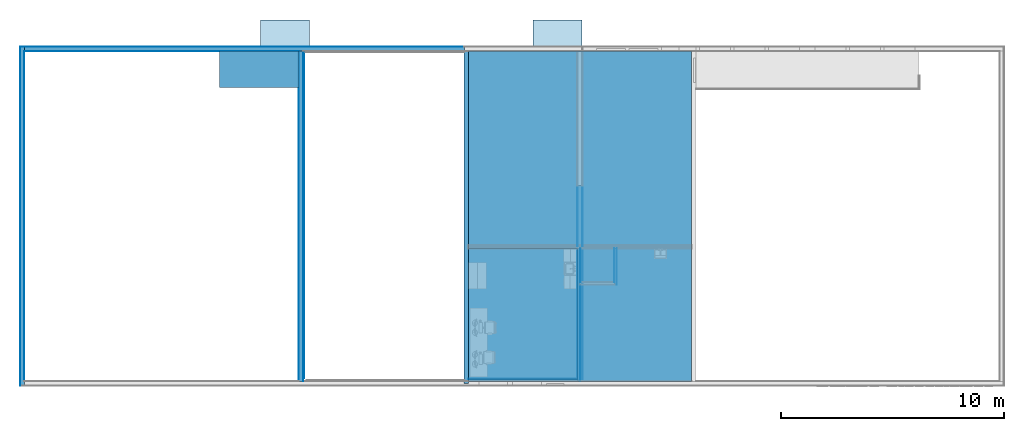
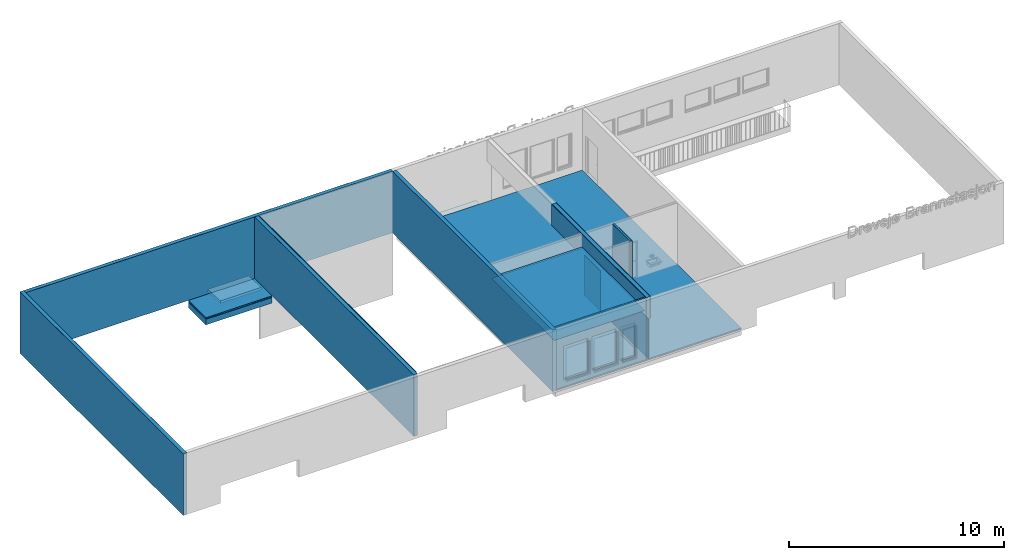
# One storey, part 1 of 12: 38 building element parts, 2 slabs, 6 openings, 13 elements without a shape of their own.
"""IFC4 building model written with IfcOpenShell, lengths in millimetres."""

import ifcopenshell
import ifcopenshell.guid

model = None  # the IFC model being written
_history = None  # IfcOwnerHistory: only IFC2X3 demands one
_inside = {}  # id of a spatial element -> (the spatial element, [elements in it])
_under = {}  # id of a project, library or spatial element -> (it, [spatial elements below it])
_declared = {}  # id of a project -> (the project, [libraries it declares])
_typed = {}  # id of a type object -> (the type object, [elements of that type])
_made_of = {}  # id of a material, layer set ... -> (it, [elements and type objects made of it])


def new_model(schema):
    """Start an empty IFC model of exactly this schema.

    Asked for "IFC4X3", IfcOpenShell would pick the latest addendum, in which some entities
    have other attributes; the version numbers below select the first issue.
    IFC2X3 requires an IfcOwnerHistory on every rooted entity: one is made here for all.
    """
    global model, _history
    if schema == "IFC4X3":
        model = ifcopenshell.file(schema_version=(4, 3, 0, 0))
    else:
        model = ifcopenshell.file(schema=schema)
    _inside.clear()
    _under.clear()
    _declared.clear()
    _typed.clear()
    _made_of.clear()
    _history = None
    if model.schema == "IFC2X3":
        org = make("IfcOrganization", Name="unknown")
        user = make(
            "IfcPersonAndOrganization",
            ThePerson=make("IfcPerson", FamilyName="unknown"),
            TheOrganization=org,
        )
        app = make(
            "IfcApplication",
            ApplicationDeveloper=org,
            Version="unknown",
            ApplicationFullName="unknown",
            ApplicationIdentifier="unknown",
        )
        _history = make(
            "IfcOwnerHistory",
            OwningUser=user,
            OwningApplication=app,
            ChangeAction="ADDED",
            CreationDate=0,
        )
    return model


def make(cls, **values):
    """One entity of the class cls with the attributes given. An attribute that is None is left unset."""
    return model.create_entity(
        cls, **{name: value for name, value in values.items() if value is not None}
    )


def entity(cls, *values):
    """Any entity or typed value of the class cls, its attributes in the order of the schema. None: left unset."""
    e = model.create_entity(cls)
    for i, value in enumerate(values):
        if value is not None:
            e[i] = value
    return e


def rooted(cls, **values):
    """An entity with a GlobalId (a new one), such as an element, a storey or a relation."""
    return make(cls, GlobalId=ifcopenshell.guid.new(), OwnerHistory=_history, **values)


def si_unit(unit_type, name, prefix=None):
    """IfcSIUnit, for example si_unit("LENGTHUNIT", "METRE", prefix="MILLI")."""
    return make("IfcSIUnit", UnitType=unit_type, Prefix=prefix, Name=name)


def converted_unit(unit_type, name, factor, base, dimensions=None, offset=None):
    """IfcConversionBasedUnit, such as the inch: factor (a typed value) times the base unit."""
    return make(
        "IfcConversionBasedUnit"
        if offset is None
        else "IfcConversionBasedUnitWithOffset",
        ConversionOffset=offset,
        Dimensions=None
        if dimensions is None
        else entity("IfcDimensionalExponents", *dimensions),
        UnitType=unit_type,
        Name=name,
        ConversionFactor=make(
            "IfcMeasureWithUnit", ValueComponent=factor, UnitComponent=base
        ),
    )


def assignment(units):
    """IfcUnitAssignment: the units of a project."""
    return None if units is None else make("IfcUnitAssignment", Units=units)


def point(xyz):
    """IfcCartesianPoint."""
    return None if xyz is None else make("IfcCartesianPoint", Coordinates=xyz)


def direction(xyz):
    """IfcDirection."""
    return None if xyz is None else make("IfcDirection", DirectionRatios=xyz)


def frame(location, z_axis=None, x_axis=None):
    """IfcAxis2Placement3D, a coordinate frame: its origin and axes. An axis left out is left unset."""
    return make(
        "IfcAxis2Placement3D",
        Location=point(location),
        Axis=direction(z_axis),
        RefDirection=direction(x_axis),
    )


def origin():
    """The frame at (0, 0, 0) with its axes left unset."""
    return frame((0.0, 0.0, 0.0))


def place(relative_to, where):
    """IfcLocalPlacement: puts the frame where relative to a parent placement (None: the world)."""
    return make(
        "IfcLocalPlacement", PlacementRelTo=relative_to, RelativePlacement=where
    )


def context(
    kind, dimensions, precision=None, world=None, true_north=None, identifier=None
):
    """IfcGeometricRepresentationContext, for example the 3D "Model" context."""
    return make(
        "IfcGeometricRepresentationContext",
        ContextIdentifier=identifier,
        ContextType=kind,
        CoordinateSpaceDimension=dimensions,
        Precision=precision,
        WorldCoordinateSystem=world,
        TrueNorth=true_north,
    )


def subcontext(parent, identifier, kind, view, scale=None):
    """IfcGeometricRepresentationSubContext, for example "Body" below "Model"."""
    return make(
        "IfcGeometricRepresentationSubContext",
        ContextIdentifier=identifier,
        ContextType=kind,
        ParentContext=parent,
        TargetScale=scale,
        TargetView=view,
    )


def project(units=None, contexts=None):
    """IfcProject with its units and contexts."""
    return rooted(
        "IfcProject",
        Name="project",
        RepresentationContexts=contexts,
        UnitsInContext=assignment(units),
    )


def spatial(cls, under=None, at=None, **own):
    """A site, building, storey or space (cls), placed at a placement, below another one or the project."""
    s = rooted(cls, ObjectPlacement=at, **own)
    if under is not None:
        _under.setdefault(under.id(), (under, []))[1].append(s)
    return s


def point_list(points):
    """IfcCartesianPointList2D or 3D."""
    cls = (
        "IfcCartesianPointList2D" if len(points[0]) == 2 else "IfcCartesianPointList3D"
    )
    return make(cls, CoordList=points)


def indexed_curve(points, segments=None, self_intersect=None):
    """IfcIndexedPolyCurve: lines and arcs through numbered points (the first is 1)."""
    return make(
        "IfcIndexedPolyCurve",
        Points=point_list(points),
        Segments=segments,
        SelfIntersect=self_intersect,
    )


def outline(outer, holes=None, kind="AREA"):
    """IfcArbitraryClosedProfileDef: a profile drawn as a closed curve; with holes, ...WithVoids."""
    if holes is None:
        return make("IfcArbitraryClosedProfileDef", ProfileType=kind, OuterCurve=outer)
    return make(
        "IfcArbitraryProfileDefWithVoids",
        ProfileType=kind,
        OuterCurve=outer,
        InnerCurves=holes,
    )


def extrude(swept, where, along, depth):
    """IfcExtrudedAreaSolid: the profile swept, set in the frame where, extruded along a direction by depth."""
    return make(
        "IfcExtrudedAreaSolid",
        SweptArea=swept,
        Position=where,
        ExtrudedDirection=direction(along),
        Depth=depth,
    )


def shape(context_of_items, identifier, shape_type, items):
    """IfcShapeRepresentation: the items that make up one representation, for example the "Body"."""
    return make(
        "IfcShapeRepresentation",
        ContextOfItems=context_of_items,
        RepresentationIdentifier=identifier,
        RepresentationType=shape_type,
        Items=items,
    )


def material(Name=None, Category=None):
    """IfcMaterial."""
    return make("IfcMaterial", Name=Name, Category=Category)


def made_of(thing, what):
    """Note that an element or type object is made of a material, layer set ...; save() writes the relation."""
    if what is not None:
        _made_of.setdefault(what.id(), (what, []))[1].append(thing)
    return thing


def type_object(cls, material=None, **own):
    """A type object (cls), such as IfcWallType, which elements share."""
    return made_of(rooted(cls, **own), material)


def element(
    cls,
    number,
    at=None,
    inside=None,
    cuts=None,
    type_object=None,
    material=None,
    context=None,
    identifier="Body",
    shape_type=None,
    held_by="IfcProductDefinitionShape",
    body=None,
    shapes=None,
    **own,
):
    """One element of the class cls, such as IfcWall. Its Tag is "e" and its number.

    at: its placement. inside: the storey or other place that contains it. cuts: it is an
    opening in that element (IfcRelVoidsElement). A single representation is given by context,
    identifier, shape_type and body (its items); several are given by shapes. held_by: the class
    of the entity that holds the representations. save() writes the other relations.
    """
    e = rooted(cls, Tag="e%d" % number, ObjectPlacement=at, **own)
    if body is not None:
        shapes = [shape(context, identifier, shape_type, body)]
    if shapes is not None:
        e.Representation = make(held_by, Representations=shapes)
    if inside is not None:
        _inside.setdefault(inside.id(), (inside, []))[1].append(e)
    if cuts is not None:
        rooted(
            "IfcRelVoidsElement", RelatingBuildingElement=cuts, RelatedOpeningElement=e
        )
    if type_object is not None:
        _typed.setdefault(type_object.id(), (type_object, []))[1].append(e)
    return made_of(e, material)


def aggregate(whole, parts):
    """IfcRelAggregates: a whole, such as a stair, and the parts it consists of."""
    return rooted("IfcRelAggregates", RelatingObject=whole, RelatedObjects=parts)


def save(model, path):
    """Write the relations noted so far, then the file.

    IfcRelAggregates (storeys below a building ...), IfcRelContainedInSpatialStructure (elements
    in a storey), IfcRelDefinesByType, IfcRelAssociatesMaterial and IfcRelDeclares: one each for
    every whole, place, type object, material and project.
    """
    for whole, parts in _under.values():
        aggregate(whole, parts)
    for where, things in _inside.values():
        rooted(
            "IfcRelContainedInSpatialStructure",
            RelatedElements=things,
            RelatingStructure=where,
        )
    for kind, things in _typed.values():
        rooted("IfcRelDefinesByType", RelatedObjects=things, RelatingType=kind)
    for what, things in _made_of.values():
        rooted("IfcRelAssociatesMaterial", RelatedObjects=things, RelatingMaterial=what)
    for by, libraries in _declared.values():
        rooted("IfcRelDeclares", RelatingContext=by, RelatedDefinitions=libraries)
    model.write(path)


model = new_model("IFC4")

# Units and contexts
model_context = context("Model", 3, precision=0.01, world=origin(), true_north=direction((0.0, 1.0)))
body_context = subcontext(model_context, "Body", "Model", "MODEL_VIEW")
ifc_project = project(units=[si_unit("LENGTHUNIT", "METRE", prefix="MILLI"), si_unit("AREAUNIT", "SQUARE_METRE"), si_unit("VOLUMEUNIT", "CUBIC_METRE"), converted_unit("PLANEANGLEUNIT", "DEGREE", entity("IfcPlaneAngleMeasure", 0.017453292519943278), si_unit("PLANEANGLEUNIT", "RADIAN"), dimensions=[0, 0, 0, 0, 0, 0, 0])], contexts=[model_context])

# Site, building, storey
site_placement = place(None, origin())
site = spatial("IfcSite", under=ifc_project, at=site_placement, Name="Tomtens navn", CompositionType="ELEMENT")
building_placement = place(site_placement, origin())
building = spatial("IfcBuilding", under=site, at=building_placement, Name="Byggets navn", CompositionType="ELEMENT")
storey_placement = place(building_placement, frame((0.0, 0.0, 3500.0)))
storey = spatial("IfcBuildingStorey", under=building, at=storey_placement, Name="Level 02", CompositionType="ELEMENT", Elevation=3499.999999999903)

# Roof, slab
roof_1_placement = place(storey_placement, frame((49282.85352810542, 23061.46645692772, -1000.0)))
roof_1 = element("IfcRoof", 1, at=roof_1_placement, inside=storey, Name="Basic Roof:Standard 150", PredefinedType="NOTDEFINED")
ifc_material_1 = material(Name="Default Roof(1)", Category="Unassigned")
slab_type_1 = type_object("IfcSlabType", Name="Basic Roof:Standard 150", PredefinedType="ROOF")
slab_1_placement = place(roof_1_placement, origin())
slab_1 = element("IfcSlab", 2, at=slab_1_placement, type_object=slab_type_1, material=ifc_material_1, Name="Basic Roof:Standard 150", PredefinedType="ROOF", context=body_context, shape_type="SweptSolid", body=[
    extrude(outline(indexed_curve([(-1100.0000000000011, -600.8234075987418), (1100.0000000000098, -600.8234075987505), (1100.0000000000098, 600.8234075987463), (-1100.0000000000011, 600.8234075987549), (-1100.0000000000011, -600.8234075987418)], self_intersect=False)), frame((1100.0, 600.0, 31.444667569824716), z_axis=(0.0, 0.05233595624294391, 0.9986295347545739), x_axis=(1.0, 0.0, 0.0)), (0.0, -0.05233595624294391, 0.9986295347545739), 150.20585189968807),
])
aggregate(roof_1, [slab_1])

roof_2_placement = place(storey_placement, frame((61502.61169884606, 23061.46645692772, -1000.0)))
roof_2 = element("IfcRoof", 3, at=roof_2_placement, inside=storey, Name="Basic Roof:Standard 150", PredefinedType="NOTDEFINED")
slab_2_placement = place(roof_2_placement, origin())
slab_2 = element("IfcSlab", 4, at=slab_2_placement, type_object=slab_type_1, material=ifc_material_1, Name="Basic Roof:Standard 150", PredefinedType="ROOF", context=body_context, shape_type="SweptSolid", body=[
    extrude(outline(indexed_curve([(-1100.0000000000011, -600.8234075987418), (1100.0000000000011, -600.8234075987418), (1100.0000000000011, 600.8234075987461), (-1100.0000000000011, 600.8234075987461), (-1100.0000000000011, -600.8234075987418)], self_intersect=False)), frame((1100.0, 600.0, 31.444667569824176), z_axis=(0.0, 0.05233595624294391, 0.9986295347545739), x_axis=(1.0, 0.0, 0.0)), (0.0, -0.05233595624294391, 0.9986295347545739), 150.20585189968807),
])
aggregate(roof_2, [slab_2])

# Wall, building element parts
wall_type_1 = type_object("IfcWallType", Name="Basic Wall:YV02 Sandwichvegg 200", PredefinedType="STANDARD")
wall_1_placement = place(storey_placement, frame((51112.85352810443, 8061.466456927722, 0.0), z_axis=(0.0, 0.0, 1.0), x_axis=(0.0, 1.0, 0.0)))
wall_1 = element("IfcWall", 5, at=wall_1_placement, inside=storey, type_object=wall_type_1, Name="Basic Wall:YV02 Sandwichvegg 200", PredefinedType="NOTDEFINED")
ifc_material_2 = material(Name="Metall - Malt overflate - Mørk Grå, Matt", Category="Unassigned")
building_element_part_1_placement = place(wall_1_placement, origin())
building_element_part_1 = element("IfcBuildingElementPart", 6, at=building_element_part_1_placement, material=ifc_material_2, Name="Metall - Malt overflate - Mørk Grå, Matt", context=body_context, shape_type="SweptSolid", body=[
    extrude(outline(indexed_curve([(-7399.999999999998, -1.000000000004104), (7399.999999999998, -1.000000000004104), (7399.999999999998, 0.9999999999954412), (-7399.999999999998, 0.9999999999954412), (-7399.999999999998, -1.000000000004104)], self_intersect=False)), frame((7400.0, 99.0, 0.0), z_axis=(0.0, 0.0, 1.0), x_axis=(-1.0, 0.0, 0.0)), (0.0, 0.0, 1.0), 3499.999999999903),
])
ifc_material_3 = material(Name="Rustfritt Stål", Category="Metal")
building_element_part_2_placement = place(wall_1_placement, origin())
building_element_part_2 = element("IfcBuildingElementPart", 7, at=building_element_part_2_placement, material=ifc_material_3, Name="Rustfritt Stål", context=body_context, shape_type="SweptSolid", body=[
    extrude(outline(indexed_curve([(-7399.999999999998, -0.9999999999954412), (7399.999999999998, -0.9999999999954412), (7399.999999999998, 0.9999999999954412), (-7399.999999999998, 0.9999999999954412), (-7399.999999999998, -0.9999999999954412)], self_intersect=False)), frame((7400.0, -99.0, 0.0), z_axis=(0.0, 0.0, 1.0), x_axis=(-1.0, 0.0, 0.0)), (0.0, 0.0, 1.0), 3499.999999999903),
])
ifc_material_4 = material(Name="NO_Isolasjon - Fast", Category="Isolasjon")
building_element_part_3_placement = place(wall_1_placement, origin())
building_element_part_3 = element("IfcBuildingElementPart", 8, at=building_element_part_3_placement, material=ifc_material_4, Name="NO_Isolasjon - Fast", context=body_context, shape_type="SweptSolid", body=[
    extrude(outline(indexed_curve([(-7401.999999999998, -98.00000000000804), (7401.999999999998, -98.00000000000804), (7401.999999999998, 97.99999999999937), (-7401.999999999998, 97.99999999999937), (-7401.999999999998, -98.00000000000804)], self_intersect=False)), frame((7400.0, 0.0, 0.0), z_axis=(0.0, 0.0, 1.0), x_axis=(-1.0, 0.0, 0.0)), (0.0, 0.0, 1.0), 3499.999999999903),
])
aggregate(wall_1, [building_element_part_1, building_element_part_2, building_element_part_3])

# Wall, building element part
wall_type_2 = type_object("IfcWallType", Name="Basic Wall:IV21 Betong 200", PredefinedType="STANDARD")
wall_2_placement = place(storey_placement, frame((58522.85352810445, 22861.46645692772, 0.0), z_axis=(0.0, 0.0, 1.0), x_axis=(0.0, -1.0, 0.0)))
wall_2 = element("IfcWall", 9, at=wall_2_placement, inside=storey, type_object=wall_type_2, Name="Basic Wall:IV21 Betong 200", PredefinedType="NOTDEFINED")
ifc_material_5 = material(Name="NO_Betong - Plasstøpt", Category="Betong")
building_element_part_4_placement = place(wall_2_placement, origin())
building_element_part_4 = element("IfcBuildingElementPart", 10, at=building_element_part_4_placement, material=ifc_material_5, Name="NO_Betong - Plasstøpt", context=body_context, shape_type="SweptSolid", body=[
    extrude(outline(indexed_curve([(-7449.999999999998, -100.00000000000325), (7449.999999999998, -100.00000000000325), (7449.999999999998, 99.99999999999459), (-7449.999999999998, 99.99999999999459), (-7449.999999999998, -100.00000000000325)], self_intersect=False)), frame((7450.0, 0.0, 0.0)), (0.0, 0.0, 1.0), 3499.999999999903),
])
aggregate(wall_2, [building_element_part_4])

# Slab, building element parts
slab_type_2 = type_object("IfcSlabType", Name="Floor:HD-320+ isolasjon og avretting", PredefinedType="FLOOR")
slab_3_placement = place(storey_placement, origin())
slab_3 = element("IfcSlab", 11, at=slab_3_placement, inside=storey, type_object=slab_type_2, Name="Floor:HD-320+ isolasjon og avretting", PredefinedType="FLOOR")
ifc_material_6 = material(Name="NO_Vinyl", Category="Diverse")
building_element_part_5_placement = place(slab_3_placement, origin())
building_element_part_5 = element("IfcBuildingElementPart", 12, at=building_element_part_5_placement, material=ifc_material_6, Name="NO_Vinyl", context=body_context, shape_type="SweptSolid", body=[
    extrude(outline(indexed_curve([(-810.4999999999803, -1780.2500000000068), (810.499999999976, -1780.2500000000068), (810.499999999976, 1780.2500000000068), (-810.4999999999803, 1780.2500000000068), (-810.4999999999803, -1780.2500000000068)], self_intersect=False)), frame((49232.60352810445, 22050.966456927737, -2.0), z_axis=(0.0, 0.0, 1.0), x_axis=(0.0, -1.0, 0.0)), (0.0, 0.0, 1.0), 2.0000000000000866),
])
building_element_part_6_placement = place(slab_3_placement, origin())
building_element_part_6 = element("IfcBuildingElementPart", 13, at=building_element_part_6_placement, material=ifc_material_6, Name="NO_Vinyl", context=body_context, shape_type="SweptSolid", body=[
    extrude(outline(indexed_curve([(-7400.000000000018, -4999.999999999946), (7400.000000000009, -4999.999999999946), (7400.000000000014, 4999.999999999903), (-7400.000000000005, 4999.999999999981), (-7400.000000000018, -4999.999999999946)], self_intersect=False)), frame((63622.853528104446, 15461.46645692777, -2.0), z_axis=(0.0, 0.0, 1.0), x_axis=(0.0, -1.0, 0.0)), (0.0, 0.0, 1.0), 2.0000000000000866),
])
building_element_part_7_placement = place(slab_3_placement, origin())
building_element_part_7 = element("IfcBuildingElementPart", 14, at=building_element_part_7_placement, material=ifc_material_5, Name="NO_Betong - Plasstøpt", context=body_context, shape_type="SweptSolid", body=[
    extrude(outline(indexed_curve([(-810.4999999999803, -1780.2500000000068), (810.499999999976, -1780.2500000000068), (810.499999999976, 1780.2500000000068), (-810.4999999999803, 1780.2500000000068), (-810.4999999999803, -1780.2500000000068)], self_intersect=False)), frame((49232.60352810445, 22050.966456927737, -72.0), z_axis=(0.0, 0.0, 1.0), x_axis=(0.0, -1.0, 0.0)), (0.0, 0.0, 1.0), 69.99999999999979),
])
building_element_part_8_placement = place(slab_3_placement, origin())
building_element_part_8 = element("IfcBuildingElementPart", 15, at=building_element_part_8_placement, material=ifc_material_5, Name="NO_Betong - Plasstøpt", context=body_context, shape_type="SweptSolid", body=[
    extrude(outline(indexed_curve([(-7400.000000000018, -4999.999999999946), (7400.000000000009, -4999.999999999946), (7400.000000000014, 4999.999999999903), (-7400.000000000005, 4999.999999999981), (-7400.000000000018, -4999.999999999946)], self_intersect=False)), frame((63622.853528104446, 15461.46645692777, -72.0), z_axis=(0.0, 0.0, 1.0), x_axis=(0.0, -1.0, 0.0)), (0.0, 0.0, 1.0), 69.99999999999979),
])
building_element_part_9_placement = place(slab_3_placement, origin())
building_element_part_9 = element("IfcBuildingElementPart", 16, at=building_element_part_9_placement, material=ifc_material_4, Name="NO_Isolasjon - Fast", context=body_context, shape_type="SweptSolid", body=[
    extrude(outline(indexed_curve([(-810.4999999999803, -1780.2500000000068), (810.499999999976, -1780.2500000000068), (810.499999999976, 1780.2500000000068), (-810.4999999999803, 1780.2500000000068), (-810.4999999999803, -1780.2500000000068)], self_intersect=False)), frame((49232.60352810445, 22050.966456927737, -92.0), z_axis=(0.0, 0.0, 1.0), x_axis=(0.0, -1.0, 0.0)), (0.0, 0.0, 1.0), 20.000000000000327),
])
building_element_part_10_placement = place(slab_3_placement, origin())
building_element_part_10 = element("IfcBuildingElementPart", 17, at=building_element_part_10_placement, material=ifc_material_4, Name="NO_Isolasjon - Fast", context=body_context, shape_type="SweptSolid", body=[
    extrude(outline(indexed_curve([(-7400.000000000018, -4999.999999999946), (7400.000000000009, -4999.999999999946), (7400.000000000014, 4999.999999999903), (-7400.000000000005, 4999.999999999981), (-7400.000000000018, -4999.999999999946)], self_intersect=False)), frame((63622.853528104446, 15461.46645692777, -92.0), z_axis=(0.0, 0.0, 1.0), x_axis=(0.0, -1.0, 0.0)), (0.0, 0.0, 1.0), 20.000000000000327),
])
building_element_part_11_placement = place(slab_3_placement, origin())
building_element_part_11 = element("IfcBuildingElementPart", 18, at=building_element_part_11_placement, Name="Floor:HD-320+ isolasjon og avretting", context=body_context, shape_type="SweptSolid", body=[
    extrude(outline(indexed_curve([(-810.4999999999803, -1780.2500000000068), (810.499999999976, -1780.2500000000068), (810.499999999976, 1780.2500000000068), (-810.4999999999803, 1780.2500000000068), (-810.4999999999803, -1780.2500000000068)], self_intersect=False)), frame((49232.60352810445, 22050.966456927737, -412.0), z_axis=(0.0, 0.0, 1.0), x_axis=(0.0, -1.0, 0.0)), (0.0, 0.0, 1.0), 319.99999999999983),
])
aggregate(slab_3, [building_element_part_5, building_element_part_6, building_element_part_7, building_element_part_8, building_element_part_9, building_element_part_10, building_element_part_11])

# Wall, building element parts, openings
wall_type_3 = type_object("IfcWallType", Name="Basic Wall:IV20 242- Utforing isolert Stender(95) gips", PredefinedType="STANDARD")
wall_3_placement = place(storey_placement, frame((63496.35352810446, 8115.466456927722, 0.0), z_axis=(0.0, 0.0, 1.0), x_axis=(-1.0, 0.0, 0.0)))
wall_3 = element("IfcWall", 19, at=wall_3_placement, inside=storey, type_object=wall_type_3, Name="Basic Wall:IV20 242- Utforing isolert Stender(95) gips", PredefinedType="NOTDEFINED")
ifc_material_7 = material(Name="NO_Gips", Category="Gips")
building_element_part_12_placement = place(wall_3_placement, origin())
building_element_part_12 = element("IfcBuildingElementPart", 20, at=building_element_part_12_placement, material=ifc_material_7, Name="NO_Gips", context=body_context, shape_type="SweptSolid", body=[
    extrude(outline(indexed_curve([(-6.499999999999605, -2443.250000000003), (6.500000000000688, -2443.250000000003), (6.499999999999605, 2443.250000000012), (-6.500000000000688, 2443.250000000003), (-6.499999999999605, -2443.250000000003)], self_intersect=False)), frame((2430.2500000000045, -47.50000000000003, 0.0), z_axis=(0.0, 0.0, 1.0), x_axis=(0.0, -1.0, 0.0)), (0.0, 0.0, 1.0), 3500.000000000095),
])
opening_1_placement = place(wall_3_placement, origin())
opening_1 = element("IfcOpeningElement", 21, at=opening_1_placement, cuts=building_element_part_12, Name="Basic Wall:IV20 242- Utforing isolert Stender(95) gips:1", PredefinedType="OPENING", context=body_context, shape_type="SweptSolid", body=[
    extrude(outline(indexed_curve([(-1266.6666666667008, -654.9999999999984), (623.333333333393, -654.9999999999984), (643.3333333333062, -654.9999999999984), (643.3333333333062, 655.000000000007), (623.333333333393, 655.000000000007), (-1266.6666666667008, 654.9999999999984), (-1266.6666666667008, -654.9999999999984)], self_intersect=False)), frame((3765.5000000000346, -41.0, 1666.666666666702), z_axis=(0.0, -1.0, 0.0), x_axis=(0.0, 0.0, 1.0)), (0.0, 0.0, 1.0), 12.99999999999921),
])
opening_2_placement = place(wall_3_placement, origin())
opening_2 = element("IfcOpeningElement", 22, at=opening_2_placement, cuts=building_element_part_12, Name="Basic Wall:IV20 242- Utforing isolert Stender(95) gips:2", PredefinedType="OPENING", context=body_context, shape_type="SweptSolid", body=[
    extrude(outline(indexed_curve([(-1266.6666666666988, -404.99999999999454), (623.3333333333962, -404.99999999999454), (643.3333333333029, -404.99999999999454), (643.3333333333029, 405.00000000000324), (623.3333333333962, 405.00000000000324), (-1266.6666666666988, 405.00000000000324), (-1266.6666666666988, -404.99999999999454)], self_intersect=False)), frame((995.5000000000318, -41.0, 1666.6666666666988), z_axis=(0.0, -1.0, 0.0), x_axis=(0.0, 0.0, 1.0)), (0.0, 0.0, 1.0), 12.99999999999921),
])
opening_3_placement = place(wall_3_placement, origin())
opening_3 = element("IfcOpeningElement", 23, at=opening_3_placement, cuts=building_element_part_12, Name="Basic Wall:IV20 242- Utforing isolert Stender(95) gips:3", PredefinedType="OPENING", context=body_context, shape_type="SweptSolid", body=[
    extrude(outline(indexed_curve([(-1266.6666666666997, -654.9999999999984), (623.3333333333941, -654.9999999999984), (643.3333333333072, -654.9999999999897), (643.3333333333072, 655.000000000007), (623.3333333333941, 655.000000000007), (-1266.6666666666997, 654.9999999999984), (-1266.6666666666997, -654.9999999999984)], self_intersect=False)), frame((2255.500000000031, -41.0, 1666.6666666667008), z_axis=(0.0, -1.0, 0.0), x_axis=(0.0, 0.0, 1.0)), (0.0, 0.0, 1.0), 12.99999999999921),
])
ifc_material_8 = material(Name="NO_Konstruksjon - Isolert", Category="Tre")
building_element_part_13_placement = place(wall_3_placement, origin())
building_element_part_13 = element("IfcBuildingElementPart", 24, at=building_element_part_13_placement, material=ifc_material_8, Name="NO_Konstruksjon - Isolert", context=body_context, shape_type="SweptSolid", body=[
    extrude(outline(indexed_curve([(-47.50000000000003, -2449.750000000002), (47.50000000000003, -2449.7500000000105), (47.49999999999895, 2449.7500000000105), (-47.500000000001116, 2449.7500000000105), (-47.50000000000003, -2449.750000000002)], self_intersect=False)), frame((2423.750000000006, 6.500000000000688, 0.0), z_axis=(0.0, 0.0, 1.0), x_axis=(0.0, 1.0, 0.0)), (0.0, 0.0, 1.0), 3500.000000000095),
])
opening_4_placement = place(wall_3_placement, origin())
opening_4 = element("IfcOpeningElement", 25, at=opening_4_placement, cuts=building_element_part_13, Name="Basic Wall:IV20 242- Utforing isolert Stender(95) gips:1", PredefinedType="OPENING", context=body_context, shape_type="SweptSolid", body=[
    extrude(outline(indexed_curve([(-623.3333333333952, -654.9999999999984), (1266.6666666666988, -654.9999999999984), (1266.6666666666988, 655.000000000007), (-623.3333333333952, 655.000000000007), (-643.3333333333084, 654.9999999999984), (-643.3333333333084, -654.9999999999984), (-623.3333333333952, -654.9999999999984)], self_intersect=False)), frame((3765.5000000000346, -41.0, 1666.6666666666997), z_axis=(0.0, 1.0, 0.0), x_axis=(0.0, 0.0, -1.0)), (0.0, 0.0, 1.0), 95.00000000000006),
])
opening_5_placement = place(wall_3_placement, origin())
opening_5 = element("IfcOpeningElement", 26, at=opening_5_placement, cuts=building_element_part_13, Name="Basic Wall:IV20 242- Utforing isolert Stender(95) gips:2", PredefinedType="OPENING", context=body_context, shape_type="SweptSolid", body=[
    extrude(outline(indexed_curve([(-1266.6666666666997, -654.9999999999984), (623.3333333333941, -655.000000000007), (643.3333333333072, -654.9999999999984), (643.3333333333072, 654.9999999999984), (623.3333333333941, 654.9999999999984), (-1266.6666666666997, 654.9999999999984), (-1266.6666666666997, -654.9999999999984)], self_intersect=False)), frame((2255.500000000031, -41.0, 1666.6666666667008), z_axis=(0.0, 1.0, 0.0), x_axis=(0.0, 0.0, 1.0)), (0.0, 0.0, 1.0), 95.00000000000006),
])
opening_6_placement = place(wall_3_placement, origin())
opening_6 = element("IfcOpeningElement", 27, at=opening_6_placement, cuts=building_element_part_13, Name="Basic Wall:IV20 242- Utforing isolert Stender(95) gips:3", PredefinedType="OPENING", context=body_context, shape_type="SweptSolid", body=[
    extrude(outline(indexed_curve([(-1266.6666666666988, -405.00000000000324), (623.3333333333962, -405.00000000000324), (643.3333333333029, -405.00000000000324), (643.3333333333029, 404.99999999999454), (623.3333333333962, 404.99999999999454), (-1266.6666666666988, 404.99999999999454), (-1266.6666666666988, -405.00000000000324)], self_intersect=False)), frame((995.5000000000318, -41.0, 1666.6666666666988), z_axis=(0.0, 1.0, 0.0), x_axis=(0.0, 0.0, 1.0)), (0.0, 0.0, 1.0), 95.00000000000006),
])
aggregate(wall_3, [building_element_part_12, opening_1, opening_2, opening_3, building_element_part_13, opening_4, opening_5, opening_6])

# Wall, building element parts
wall_type_4 = type_object("IfcWallType", Name="Basic Wall:IV24 - Forestia+Gips- Stende4+2xgips", PredefinedType="STANDARD")
wall_4_placement = place(storey_placement, frame((63622.35352810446, 16840.966456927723, 2290.0), z_axis=(0.0, 0.0, 1.0), x_axis=(0.0, -1.0, 0.0)))
wall_4 = element("IfcWall", 28, at=wall_4_placement, inside=storey, type_object=wall_type_4, Name="Basic Wall:IV24 - Forestia+Gips- Stende4+2xgips", PredefinedType="NOTDEFINED")
ifc_material_9 = material(Name="Gipsplater", Category="NOR ^ Gips")
building_element_part_14_placement = place(wall_4_placement, origin())
building_element_part_14 = element("IfcBuildingElementPart", 29, at=building_element_part_14_placement, material=ifc_material_9, Name="Gipsplater", context=body_context, shape_type="SweptSolid", body=[
    extrude(outline(indexed_curve([(-4389.75, -6.499999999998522), (4389.749999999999, -6.499999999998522), (4389.749999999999, 6.499999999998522), (-4389.75, 6.499999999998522), (-4389.75, -6.499999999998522)], self_intersect=False)), frame((4389.75, -106.50000000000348, 0.0)), (0.0, 0.0, 1.0), 1210.0),
])
building_element_part_15_placement = place(wall_4_placement, origin())
building_element_part_15 = element("IfcBuildingElementPart", 30, at=building_element_part_15_placement, material=ifc_material_9, Name="Gipsplater", context=body_context, shape_type="SweptSolid", body=[
    extrude(outline(indexed_curve([(-4389.75, -6.499999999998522), (4389.749999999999, -6.499999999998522), (4389.749999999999, 6.499999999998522), (-4389.75, 6.499999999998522), (-4389.75, -6.499999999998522)], self_intersect=False)), frame((4389.75, 106.50000000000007, 0.0)), (0.0, 0.0, 1.0), 1210.0),
])
ifc_material_10 = material(Name="NO_platekledning forestia", Category="Tre")
building_element_part_16_placement = place(wall_4_placement, origin())
building_element_part_16 = element("IfcBuildingElementPart", 31, at=building_element_part_16_placement, material=ifc_material_10, Name="NO_platekledning forestia", context=body_context, shape_type="SweptSolid", body=[
    extrude(outline(indexed_curve([(-4389.75, -6.499999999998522), (4389.749999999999, -6.499999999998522), (4389.75, 6.500000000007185), (-4389.75, 6.499999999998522), (-4389.75, -6.499999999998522)], self_intersect=False)), frame((4389.75, 119.49999999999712, 0.0)), (0.0, 0.0, 1.0), 1210.0),
])
building_element_part_17_placement = place(wall_4_placement, origin())
building_element_part_17 = element("IfcBuildingElementPart", 32, at=building_element_part_17_placement, material=ifc_material_9, Name="Gipsplater", context=body_context, shape_type="SweptSolid", body=[
    extrude(outline(indexed_curve([(-4389.75, -6.500000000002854), (4389.749999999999, -6.500000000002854), (4389.749999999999, 6.49999999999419), (-4389.75, 6.500000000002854), (-4389.75, -6.500000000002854)], self_intersect=False)), frame((4389.75, -119.50000000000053, 0.0)), (0.0, 0.0, 1.0), 1210.0),
])
ifc_material_11 = material(Name="Stender", Category="Unassigned")
building_element_part_18_placement = place(wall_4_placement, origin())
building_element_part_18 = element("IfcBuildingElementPart", 33, at=building_element_part_18_placement, material=ifc_material_11, Name="Stender", context=body_context, shape_type="SweptSolid", body=[
    extrude(outline(indexed_curve([(-4390.75, -100.00000000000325), (4390.749999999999, -100.00000000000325), (4390.749999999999, 100.00000000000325), (-4390.75, 100.00000000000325), (-4390.75, -100.00000000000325)], self_intersect=False)), frame((4390.75, 0.0, 0.0)), (0.0, 0.0, 1.0), 1210.0),
])
aggregate(wall_4, [building_element_part_14, building_element_part_15, building_element_part_16, building_element_part_17, building_element_part_18])

wall_type_5 = type_object("IfcWallType", Name="Basic Wall:IV17 - Utforing lekt+fasadeplater", PredefinedType="STANDARD")
wall_5_placement = place(storey_placement, frame((51235.85352810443, 8211.46645692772, 0.0), z_axis=(0.0, 0.0, 1.0), x_axis=(0.0, 1.0, 0.0)))
wall_5 = element("IfcWall", 34, at=wall_5_placement, inside=storey, type_object=wall_type_5, Name="Basic Wall:IV17 - Utforing lekt+fasadeplater", PredefinedType="NOTDEFINED")
ifc_material_12 = material(Name="NO_platekledning", Category="Tre")
building_element_part_19_placement = place(wall_5_placement, origin())
building_element_part_19 = element("IfcBuildingElementPart", 35, at=building_element_part_19_placement, material=ifc_material_12, Name="NO_platekledning", context=body_context, shape_type="SweptSolid", body=[
    extrude(outline(indexed_curve([(-7301.999999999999, -4.999999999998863), (7302.000000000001, -4.999999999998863), (7302.000000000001, 4.999999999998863), (-7301.999999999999, 4.999999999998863), (-7301.999999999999, -4.999999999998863)], self_intersect=False)), frame((7302.0, -18.0, 0.0), z_axis=(0.0, 0.0, 1.0), x_axis=(-1.0, 0.0, 0.0)), (0.0, 0.0, 1.0), 3499.999999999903),
])
building_element_part_20_placement = place(wall_5_placement, origin())
building_element_part_20 = element("IfcBuildingElementPart", 36, at=building_element_part_20_placement, material=ifc_material_11, Name="Stender", context=body_context, shape_type="SweptSolid", body=[
    extrude(outline(indexed_curve([(-7301.999999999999, -17.999999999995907), (7302.000000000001, -17.999999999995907), (7302.000000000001, 18.000000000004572), (-7301.999999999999, 18.000000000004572), (-7301.999999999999, -17.999999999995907)], self_intersect=False)), frame((7302.0, 5.0, 0.0), z_axis=(0.0, 0.0, 1.0), x_axis=(-1.0, 0.0, 0.0)), (0.0, 0.0, 1.0), 3499.999999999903),
])
aggregate(wall_5, [building_element_part_19, building_element_part_20])

wall_type_6 = type_object("IfcWallType", Name="Basic Wall:IV04 - Gipsx2 Stender-kryssfiner- Gips-147mm", PredefinedType="STANDARD")
wall_6_placement = place(storey_placement, frame((63570.85352810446, 8061.466456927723, 0.0), z_axis=(0.0, 0.0, 1.0), x_axis=(0.0, 1.0, 0.0)))
wall_6 = element("IfcWall", 37, at=wall_6_placement, inside=storey, type_object=wall_type_6, Name="Basic Wall:IV04 - Gipsx2 Stender-kryssfiner- Gips-147mm", PredefinedType="NOTDEFINED")
ifc_material_13 = material(Name="NO_Kryssfiner", Category="Tre")
building_element_part_21_placement = place(wall_6_placement, origin())
building_element_part_21 = element("IfcBuildingElementPart", 38, at=building_element_part_21_placement, material=ifc_material_13, Name="NO_Kryssfiner", context=body_context, shape_type="SweptSolid", body=[
    extrude(outline(indexed_curve([(-763.0000000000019, -7.500000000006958), (762.9999999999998, -7.500000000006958), (762.9999999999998, 7.499999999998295), (-763.0000000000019, 7.499999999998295), (-763.0000000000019, -7.500000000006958)], self_intersect=False)), frame((5196.0, -54.0, 0.0), z_axis=(0.0, 0.0, 1.0), x_axis=(-1.0, 0.0, 0.0)), (0.0, 0.0, 1.0), 2290.000000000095),
])
building_element_part_22_placement = place(wall_6_placement, origin())
building_element_part_22 = element("IfcBuildingElementPart", 39, at=building_element_part_22_placement, material=ifc_material_13, Name="NO_Kryssfiner", context=body_context, shape_type="SweptSolid", body=[
    extrude(outline(indexed_curve([(-2169.0000000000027, -7.500000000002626), (2169.000000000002, -7.500000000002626), (2169.000000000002, 7.500000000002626), (-2169.0000000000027, 7.500000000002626), (-2169.0000000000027, -7.500000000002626)], self_intersect=False)), frame((2169.0, -54.0, 0.0), z_axis=(0.0, 0.0, 1.0), x_axis=(-1.0, 0.0, 0.0)), (0.0, 0.0, 1.0), 2290.000000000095),
])
building_element_part_23_placement = place(wall_6_placement, origin())
building_element_part_23 = element("IfcBuildingElementPart", 40, at=building_element_part_23_placement, material=ifc_material_9, Name="Gipsplater", context=body_context, shape_type="SweptSolid", body=[
    extrude(outline(indexed_curve([(-2973.000000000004, -6.500000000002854), (2973.000000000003, -6.500000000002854), (2973.000000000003, 6.49999999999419), (-2973.000000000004, 6.49999999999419), (-2973.000000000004, -6.500000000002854)], self_intersect=False)), frame((2973.0, 68.0, 0.0), z_axis=(0.0, 0.0, 1.0), x_axis=(-1.0, 0.0, 0.0)), (0.0, 0.0, 1.0), 2290.000000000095),
])
building_element_part_24_placement = place(wall_6_placement, origin())
building_element_part_24 = element("IfcBuildingElementPart", 41, at=building_element_part_24_placement, material=ifc_material_11, Name="Stender", context=body_context, shape_type="SweptSolid", body=[
    extrude(outline(indexed_curve([(-2988.0000000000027, -47.499999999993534), (2988.000000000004, -47.499999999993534), (2988.000000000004, 47.500000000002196), (-2988.0000000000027, 47.500000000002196), (-2988.0000000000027, -47.499999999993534)], self_intersect=False)), frame((2986.0, 1.0, 0.0), z_axis=(0.0, 0.0, 1.0), x_axis=(-1.0, 0.0, 0.0)), (0.0, 0.0, 1.0), 2290.000000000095),
])
building_element_part_25_placement = place(wall_6_placement, origin())
building_element_part_25 = element("IfcBuildingElementPart", 42, at=building_element_part_25_placement, material=ifc_material_9, Name="Gipsplater", context=body_context, shape_type="SweptSolid", body=[
    extrude(outline(indexed_curve([(-750.0000000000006, -6.499999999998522), (750.0000000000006, -6.499999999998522), (750.0000000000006, 6.499999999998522), (-750.0000000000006, 6.499999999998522), (-750.0000000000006, -6.499999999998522)], self_intersect=False)), frame((5196.0, -68.0, 0.0), z_axis=(0.0, 0.0, 1.0), x_axis=(-1.0, 0.0, 0.0)), (0.0, 0.0, 1.0), 2290.000000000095),
])
building_element_part_26_placement = place(wall_6_placement, origin())
building_element_part_26 = element("IfcBuildingElementPart", 43, at=building_element_part_26_placement, material=ifc_material_9, Name="Gipsplater", context=body_context, shape_type="SweptSolid", body=[
    extrude(outline(indexed_curve([(-2162.5000000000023, -6.49999999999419), (2162.500000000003, -6.49999999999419), (2162.500000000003, 6.500000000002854), (-2162.5000000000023, 6.500000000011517), (-2162.5000000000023, -6.49999999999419)], self_intersect=False)), frame((2162.500000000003, -68.0, 0.0), z_axis=(0.0, 0.0, 1.0), x_axis=(-1.0, 0.0, 0.0)), (0.0, 0.0, 1.0), 2290.000000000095),
])
building_element_part_27_placement = place(wall_6_placement, origin())
building_element_part_27 = element("IfcBuildingElementPart", 44, at=building_element_part_27_placement, material=ifc_material_9, Name="Gipsplater", context=body_context, shape_type="SweptSolid", body=[
    extrude(outline(indexed_curve([(-2979.5000000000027, -6.500000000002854), (2979.5000000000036, -6.500000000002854), (2979.5000000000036, 6.500000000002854), (-2979.5000000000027, 6.500000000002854), (-2979.5000000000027, -6.500000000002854)], self_intersect=False)), frame((2979.5000000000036, 55.0, 0.0), z_axis=(0.0, 0.0, 1.0), x_axis=(-1.0, 0.0, 0.0)), (0.0, 0.0, 1.0), 2290.0000000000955),
])
aggregate(wall_6, [building_element_part_21, building_element_part_22, building_element_part_23, building_element_part_24, building_element_part_25, building_element_part_26, building_element_part_27])

wall_type_7 = type_object("IfcWallType", Name="Basic Wall:IV02 Gips Stender Gips-120mm", PredefinedType="STANDARD")
wall_7_placement = place(storey_placement, frame((65205.85352810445, 14007.46645692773, 0.0), z_axis=(0.0, 0.0, 1.0), x_axis=(0.0, -1.0, 0.0)))
wall_7 = element("IfcWall", 45, at=wall_7_placement, inside=storey, type_object=wall_type_7, Name="Basic Wall:IV02 Gips Stender Gips-120mm", PredefinedType="NOTDEFINED")
building_element_part_28_placement = place(wall_7_placement, origin())
building_element_part_28 = element("IfcBuildingElementPart", 46, at=building_element_part_28_placement, material=ifc_material_11, Name="Stender", context=body_context, shape_type="SweptSolid", body=[
    extrude(outline(indexed_curve([(-818.0000000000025, -47.49999999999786), (818.0000000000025, -47.49999999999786), (818.0000000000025, 47.49999999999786), (-818.0000000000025, 47.49999999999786), (-818.0000000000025, -47.49999999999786)], self_intersect=False)), frame((790.0, 0.0, 0.0)), (0.0, 0.0, 1.0), 3500.000000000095),
])
building_element_part_29_placement = place(wall_7_placement, origin())
building_element_part_29 = element("IfcBuildingElementPart", 47, at=building_element_part_29_placement, material=ifc_material_9, Name="Gipsplater", context=body_context, shape_type="SweptSolid", body=[
    extrude(outline(indexed_curve([(-763.0000000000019, -6.499999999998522), (763.0000000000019, -6.499999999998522), (763.0000000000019, 6.499999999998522), (-763.0000000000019, 6.499999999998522), (-763.0000000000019, -6.499999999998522)], self_intersect=False)), frame((750.0, -54.0, 0.0)), (0.0, 0.0, 1.0), 3500.000000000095),
])
building_element_part_30_placement = place(wall_7_placement, origin())
building_element_part_30 = element("IfcBuildingElementPart", 48, at=building_element_part_30_placement, material=ifc_material_9, Name="Gipsplater", context=body_context, shape_type="SweptSolid", body=[
    extrude(outline(indexed_curve([(-817.0000000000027, -6.499999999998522), (817.0000000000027, -6.499999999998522), (817.0000000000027, 6.500000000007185), (-817.0000000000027, 6.500000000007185), (-817.0000000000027, -6.499999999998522)], self_intersect=False)), frame((804.0, 54.0, 0.0)), (0.0, 0.0, 1.0), 3500.000000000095),
])
aggregate(wall_7, [building_element_part_28, building_element_part_29, building_element_part_30])

wall_8_placement = place(storey_placement, frame((38712.85352810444, 22961.466456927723, 0.0)))
wall_8 = element("IfcWall", 49, at=wall_8_placement, inside=storey, type_object=wall_type_1, Name="Basic Wall:YV02 Sandwichvegg 200", PredefinedType="NOTDEFINED")
building_element_part_31_placement = place(wall_8_placement, origin())
building_element_part_31 = element("IfcBuildingElementPart", 50, at=building_element_part_31_placement, material=ifc_material_2, Name="Metall - Malt overflate - Mørk Grå, Matt", context=body_context, shape_type="SweptSolid", body=[
    extrude(outline(indexed_curve([(-0.9999999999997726, -9958.999999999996), (0.9999999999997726, -9958.999999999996), (0.9999999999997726, 9958.999999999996), (-0.9999999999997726, 9958.999999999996), (-0.9999999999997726, -9958.999999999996)], self_intersect=False)), frame((9761.0, 99.0, 0.0), z_axis=(0.0, 0.0, 1.0), x_axis=(0.0, -1.0, 0.0)), (0.0, 0.0, 1.0), 3499.9999999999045),
])
building_element_part_32_placement = place(wall_8_placement, origin())
building_element_part_32 = element("IfcBuildingElementPart", 51, at=building_element_part_32_placement, material=ifc_material_3, Name="Rustfritt Stål", context=body_context, shape_type="SweptSolid", body=[
    extrude(outline(indexed_curve([(-1.000000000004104, -6151.000000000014), (0.9999999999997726, -6151.000000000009), (0.9999999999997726, 6151.0000000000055), (-1.000000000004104, 6151.0000000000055), (-1.000000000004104, -6151.000000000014)], self_intersect=False)), frame((6151.0, -99.0, 0.0), z_axis=(0.0, 0.0, 1.0), x_axis=(0.0, -1.0, 0.0)), (0.0, 0.0, 1.0), 3499.999999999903),
])
building_element_part_33_placement = place(wall_8_placement, origin())
building_element_part_33 = element("IfcBuildingElementPart", 52, at=building_element_part_33_placement, material=ifc_material_4, Name="NO_Isolasjon - Fast", context=body_context, shape_type="SweptSolid", body=[
    extrude(outline(indexed_curve([(-97.99999999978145, -9861.000000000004), (98.00000000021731, -9861.000000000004), (97.99999999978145, 9860.999999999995), (-98.00000000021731, 9860.99999999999), (-97.99999999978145, -9861.000000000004)], self_intersect=False)), frame((9859.0, 0.0, 0.0), z_axis=(0.0, 0.0, 1.0), x_axis=(0.0, -1.0, 0.0)), (0.0, 0.0, 1.0), 3499.9999999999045),
])
aggregate(wall_8, [building_element_part_31, building_element_part_32, building_element_part_33])

wall_9_placement = place(storey_placement, frame((38612.853528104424, 7861.466456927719, 0.0), z_axis=(0.0, 0.0, 1.0), x_axis=(0.0, 1.0, 0.0)))
wall_9 = element("IfcWall", 53, at=wall_9_placement, inside=storey, type_object=wall_type_1, Name="Basic Wall:YV02 Sandwichvegg 200", PredefinedType="NOTDEFINED")
building_element_part_34_placement = place(wall_9_placement, origin())
building_element_part_34 = element("IfcBuildingElementPart", 54, at=building_element_part_34_placement, material=ifc_material_2, Name="Metall - Malt overflate - Mørk Grå, Matt", context=body_context, shape_type="SweptSolid", body=[
    extrude(outline(indexed_curve([(-7600.000000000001, -0.9999999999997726), (7599.999999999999, -0.9999999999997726), (7600.000000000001, 0.9999999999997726), (-7600.000000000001, 0.9999999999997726), (-7600.000000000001, -0.9999999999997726)], self_intersect=False)), frame((7600.0, 99.0, 0.0), z_axis=(0.0, 0.0, 1.0), x_axis=(-1.0, 0.0, 0.0)), (0.0, 0.0, 1.0), 3499.999999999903),
])
building_element_part_35_placement = place(wall_9_placement, origin())
building_element_part_35 = element("IfcBuildingElementPart", 55, at=building_element_part_35_placement, material=ifc_material_3, Name="Rustfritt Stål", context=body_context, shape_type="SweptSolid", body=[
    extrude(outline(indexed_curve([(-7401.999999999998, -0.9999999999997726), (7401.999999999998, -0.9999999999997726), (7401.999999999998, 0.9999999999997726), (-7401.999999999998, 0.9999999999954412), (-7401.999999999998, -0.9999999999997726)], self_intersect=False)), frame((7600.0, -99.0, 0.0), z_axis=(0.0, 0.0, 1.0), x_axis=(-1.0, 0.0, 0.0)), (0.0, 0.0, 1.0), 3499.9999999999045),
])
building_element_part_36_placement = place(wall_9_placement, origin())
building_element_part_36 = element("IfcBuildingElementPart", 56, at=building_element_part_36_placement, material=ifc_material_4, Name="NO_Isolasjon - Fast", context=body_context, shape_type="SweptSolid", body=[
    extrude(outline(indexed_curve([(-7597.999999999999, -97.99999999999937), (7597.999999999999, -97.99999999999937), (7597.999999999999, 97.99999999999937), (-7597.999999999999, 97.99999999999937), (-7597.999999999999, -97.99999999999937)], self_intersect=False)), frame((7600.0, 0.0, 0.0), z_axis=(0.0, 0.0, 1.0), x_axis=(-1.0, 0.0, 0.0)), (0.0, 0.0, 1.0), 3499.999999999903),
])
aggregate(wall_9, [building_element_part_34, building_element_part_35, building_element_part_36])

# Space
space_placement = place(storey_placement, origin())
space = spatial("IfcSpace", under=storey, at=space_placement, Name="205", CompositionType="ELEMENT", PredefinedType="NOTDEFINED")

# Covering, building element parts
covering_type = type_object("IfcCoveringType", Name="Compound Ceiling:H01 257_Systemhimling 600x600, tykkelse 100", PredefinedType="CEILING")
covering_placement = place(space_placement, origin())
covering = element("IfcCovering", 57, at=covering_placement, inside=space, type_object=covering_type, Name="Compound Ceiling:H01 257_Systemhimling 600x600, tykkelse 100", PredefinedType="CEILING")
ifc_material_14 = material(Name="NO_Himling (type ikke bestemt)", Category="Diverse")
building_element_part_37_placement = place(covering_placement, origin())
building_element_part_37 = element("IfcBuildingElementPart", 58, at=building_element_part_37_placement, material=ifc_material_14, Name="NO_Himling (type ikke bestemt)", context=body_context, shape_type="SweptSolid", body=[
    extrude(outline(indexed_curve([(-2919.000000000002, -2436.7500000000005), (2919.0000000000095, -2436.750000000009), (2919.000000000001, 2436.750000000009), (-2919.0000000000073, 2436.750000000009), (-2919.000000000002, -2436.7500000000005)], self_intersect=False)), frame((61059.603528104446, 11088.466456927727, 2720.0), z_axis=(0.0, 0.0, 1.0), x_axis=(0.0, -1.0, 0.0)), (0.0, 0.0, 1.0), 80.00000000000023),
])
ifc_material_15 = material(Name="NO_Himling 600x600", Category="Diverse")
building_element_part_38_placement = place(covering_placement, origin())
building_element_part_38 = element("IfcBuildingElementPart", 59, at=building_element_part_38_placement, material=ifc_material_15, Name="NO_Himling 600x600", context=body_context, shape_type="SweptSolid", body=[
    extrude(outline(indexed_curve([(-2919.000000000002, -2436.7500000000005), (2919.0000000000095, -2436.750000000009), (2919.000000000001, 2436.750000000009), (-2919.0000000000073, 2436.750000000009), (-2919.000000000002, -2436.7500000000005)], self_intersect=False)), frame((61059.603528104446, 11088.466456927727, 2700.0), z_axis=(0.0, 0.0, 1.0), x_axis=(0.0, -1.0, 0.0)), (0.0, 0.0, 1.0), 19.999999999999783),
])
aggregate(covering, [building_element_part_37, building_element_part_38])

save(model, "model.ifc")
